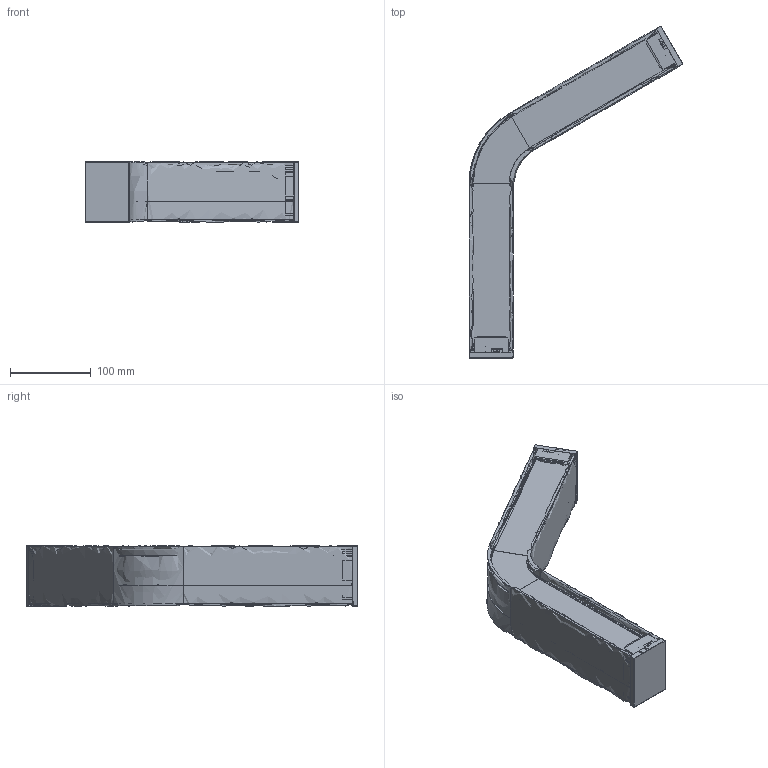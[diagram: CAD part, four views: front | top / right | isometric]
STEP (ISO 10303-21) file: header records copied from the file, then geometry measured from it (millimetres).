
FILE_DESCRIPTION(/* description */ (''),/* implementation_level */ '2;1');
FILE_NAME(/* name */ 'KISSA1~2',/* time_stamp */ '2026-04-24T14:03:05+02:00',/* author */ (''),/* organization */ (''),/* preprocessor_version */ 'ST-DEVELOPER v16.5',/* originating_system */ '',/* authorisation */ '');
FILE_SCHEMA (('AUTOMOTIVE_DESIGN'));
Products named in the file (1): Document
Bounding box: 264.94 x 411.39 x 75 mm (x, y, z)
Volume: 240663.7 mm3; surface area: 404492.7 mm2
Topology: 9 solids, 9 shells, 1922 faces, 5268 edges, 3366 vertices
Faces by surface type: bspline 1922
Entity records: 163502 total; most frequent: CARTESIAN_POINT 96320, B_SPLINE_CURVE_WITH_KNOTS 14556, ORIENTED_EDGE 10512, PCURVE 10512, DEFINITIONAL_REPRESENTATION 10512, SURFACE_CURVE 5256, EDGE_CURVE 5256, VERTEX_POINT 3366
